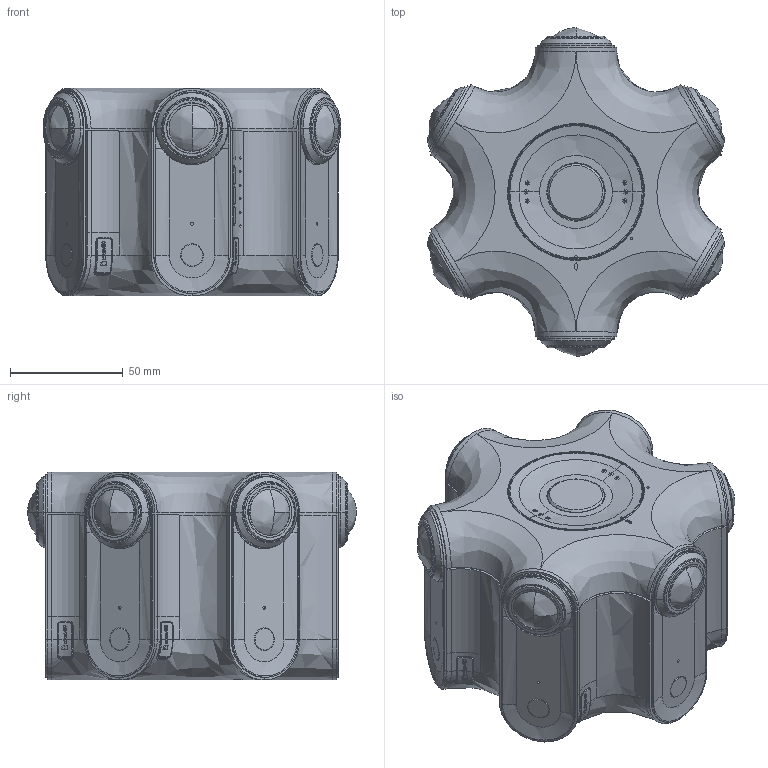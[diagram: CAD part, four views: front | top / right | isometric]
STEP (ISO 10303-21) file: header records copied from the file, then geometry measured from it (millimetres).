
FILE_DESCRIPTION(/* description */ (''),/* implementation_level */ '2;1');
FILE_NAME(/* name */ 'OBSIDI~2',/* time_stamp */ '2017-10-19T19:04:11+08:00',/* author */ (''),/* organization */ (''),/* preprocessor_version */ 'ST-DEVELOPER v15',/* originating_system */ '',/* authorisation */ '');
FILE_SCHEMA (('AUTOMOTIVE_DESIGN_CC2'));
Length unit declared in the file: millimetre
Products named in the file (1): Document
Bounding box: 131.88 x 145.49 x 92 mm (x, y, z)
Volume: 1062292.5 mm3; surface area: 68422.3 mm2
Topology: 2 solids, 2 shells, 1537 faces, 3914 edges, 2499 vertices
Faces by surface type: bspline 1090, plane 447
Entity records: 72566 total; most frequent: CARTESIAN_POINT 48927, ORIENTED_EDGE 7788, EDGE_CURVE 3894, B_SPLINE_CURVE_WITH_KNOTS 2656, VERTEX_POINT 2499, EDGE_LOOP 1677, ADVANCED_FACE 1537, FACE_OUTER_BOUND 1537
